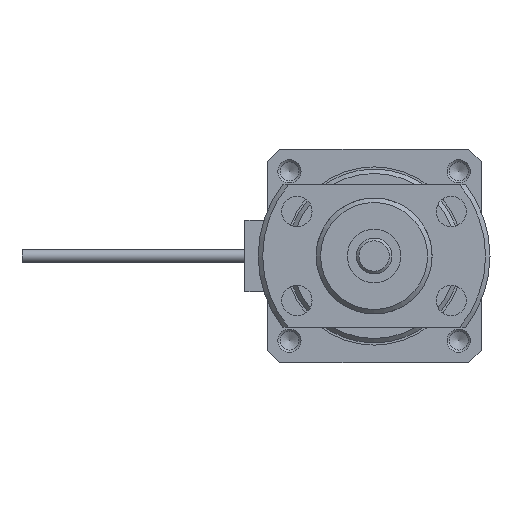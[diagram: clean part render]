
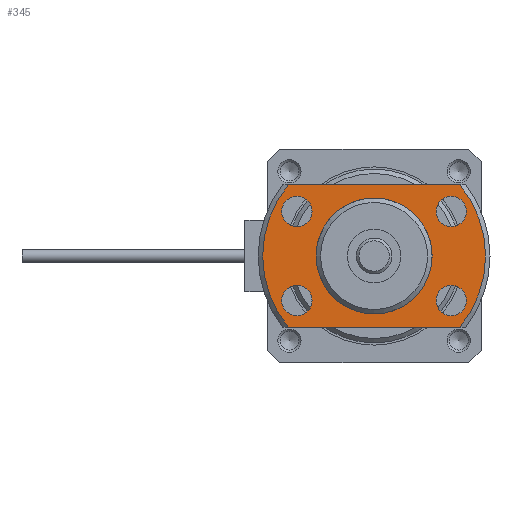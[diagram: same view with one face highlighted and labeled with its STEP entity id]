
A CAD part, left-side view. The second image highlights one B-rep face of the part: STEP entity #345.
In plain terms, the highlighted planar face has unit normal (-1, 0, 0) as drawn and (0, 0, 1) by its records, which use the part's own axes.
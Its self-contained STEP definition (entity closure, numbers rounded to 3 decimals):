
#345 = ADVANCED_FACE( '', ( #887, #888, #889, #890, #891, #892 ), #893, .F. );
#887 = FACE_OUTER_BOUND( '', #1726, .T. );
#888 = FACE_BOUND( '', #1727, .T. );
#889 = FACE_BOUND( '', #1728, .T. );
#890 = FACE_BOUND( '', #1729, .T. );
#891 = FACE_BOUND( '', #1730, .T. );
#892 = FACE_BOUND( '', #1731, .T. );
#893 = PLANE( '', #1732 );
#1726 = EDGE_LOOP( '', ( #2722, #2723, #2724, #2725 ) );
#1727 = EDGE_LOOP( '', ( #2726 ) );
#1728 = EDGE_LOOP( '', ( #2727 ) );
#1729 = EDGE_LOOP( '', ( #2728 ) );
#1730 = EDGE_LOOP( '', ( #2729 ) );
#1731 = EDGE_LOOP( '', ( #2730 ) );
#1732 = AXIS2_PLACEMENT_3D( '', #2731, #2732, #2733 );
#2722 = ORIENTED_EDGE( '', *, *, #4755, .F. );
#2723 = ORIENTED_EDGE( '', *, *, #4756, .T. );
#2724 = ORIENTED_EDGE( '', *, *, #4757, .F. );
#2725 = ORIENTED_EDGE( '', *, *, #4758, .T. );
#2726 = ORIENTED_EDGE( '', *, *, #4759, .F. );
#2727 = ORIENTED_EDGE( '', *, *, #4760, .F. );
#2728 = ORIENTED_EDGE( '', *, *, #4761, .F. );
#2729 = ORIENTED_EDGE( '', *, *, #4762, .F. );
#2730 = ORIENTED_EDGE( '', *, *, #4763, .T. );
#2731 = CARTESIAN_POINT( '', ( 0., 0., -13. ) );
#2732 = DIRECTION( '', ( 0., 0., -1. ) );
#2733 = DIRECTION( '', ( -1., 0., 0. ) );
#4755 = EDGE_CURVE( '', #5654, #5655, #5656, .T. );
#4756 = EDGE_CURVE( '', #5654, #5657, #5658, .T. );
#4757 = EDGE_CURVE( '', #5659, #5657, #5660, .T. );
#4758 = EDGE_CURVE( '', #5659, #5655, #5661, .T. );
#4759 = EDGE_CURVE( '', #5662, #5662, #5663, .T. );
#4760 = EDGE_CURVE( '', #5664, #5664, #5665, .T. );
#4761 = EDGE_CURVE( '', #5666, #5666, #5667, .T. );
#4762 = EDGE_CURVE( '', #5668, #5668, #5669, .T. );
#4763 = EDGE_CURVE( '', #5670, #5670, #5671, .T. );
#5654 = VERTEX_POINT( '', #7030 );
#5655 = VERTEX_POINT( '', #7031 );
#5656 = CIRCLE( '', #7032, 12.5 );
#5657 = VERTEX_POINT( '', #7033 );
#5658 = LINE( '', #7034, #7035 );
#5659 = VERTEX_POINT( '', #7036 );
#5660 = CIRCLE( '', #7037, 12.5 );
#5661 = LINE( '', #7038, #7039 );
#5662 = VERTEX_POINT( '', #7040 );
#5663 = CIRCLE( '', #7041, 1.7 );
#5664 = VERTEX_POINT( '', #7042 );
#5665 = CIRCLE( '', #7043, 1.7 );
#5666 = VERTEX_POINT( '', #7044 );
#5667 = CIRCLE( '', #7045, 1.7 );
#5668 = VERTEX_POINT( '', #7046 );
#5669 = CIRCLE( '', #7047, 1.7 );
#5670 = VERTEX_POINT( '', #7048 );
#5671 = CIRCLE( '', #7049, 6.25 );
#7030 = CARTESIAN_POINT( '', ( -8., 9.605, -13. ) );
#7031 = CARTESIAN_POINT( '', ( 8., 9.605, -13. ) );
#7032 = AXIS2_PLACEMENT_3D( '', #8747, #8748, #8749 );
#7033 = CARTESIAN_POINT( '', ( -8., -9.605, -13. ) );
#7034 = CARTESIAN_POINT( '', ( -8., 20., -13. ) );
#7035 = VECTOR( '', #8750, 1000. );
#7036 = CARTESIAN_POINT( '', ( 8., -9.605, -13. ) );
#7037 = AXIS2_PLACEMENT_3D( '', #8751, #8752, #8753 );
#7038 = CARTESIAN_POINT( '', ( 8., -20., -13. ) );
#7039 = VECTOR( '', #8754, 1000. );
#7040 = CARTESIAN_POINT( '', ( 6.7, -8.66, -13. ) );
#7041 = AXIS2_PLACEMENT_3D( '', #8755, #8756, #8757 );
#7042 = CARTESIAN_POINT( '', ( -3.3, -8.66, -13. ) );
#7043 = AXIS2_PLACEMENT_3D( '', #8758, #8759, #8760 );
#7044 = CARTESIAN_POINT( '', ( 6.7, 8.66, -13. ) );
#7045 = AXIS2_PLACEMENT_3D( '', #8761, #8762, #8763 );
#7046 = CARTESIAN_POINT( '', ( -3.3, 8.66, -13. ) );
#7047 = AXIS2_PLACEMENT_3D( '', #8764, #8765, #8766 );
#7048 = CARTESIAN_POINT( '', ( -6.25, 0., -13. ) );
#7049 = AXIS2_PLACEMENT_3D( '', #8767, #8768, #8769 );
#8747 = CARTESIAN_POINT( '', ( 0., 0., -13. ) );
#8748 = DIRECTION( '', ( 0., 0., -1. ) );
#8749 = DIRECTION( '', ( -1., 0., 0. ) );
#8750 = DIRECTION( '', ( 0., -1., 0. ) );
#8751 = CARTESIAN_POINT( '', ( 0., 0., -13. ) );
#8752 = DIRECTION( '', ( 0., 0., -1. ) );
#8753 = DIRECTION( '', ( -1., 0., 0. ) );
#8754 = DIRECTION( '', ( 0., 1., 0. ) );
#8755 = CARTESIAN_POINT( '', ( 5., -8.66, -13. ) );
#8756 = DIRECTION( '', ( 0., 0., 1. ) );
#8757 = DIRECTION( '', ( 1., 0., 0. ) );
#8758 = CARTESIAN_POINT( '', ( -5., -8.66, -13. ) );
#8759 = DIRECTION( '', ( 0., 0., 1. ) );
#8760 = DIRECTION( '', ( 1., 0., 0. ) );
#8761 = CARTESIAN_POINT( '', ( 5., 8.66, -13. ) );
#8762 = DIRECTION( '', ( 0., 0., 1. ) );
#8763 = DIRECTION( '', ( 1., 0., 0. ) );
#8764 = CARTESIAN_POINT( '', ( -5., 8.66, -13. ) );
#8765 = DIRECTION( '', ( 0., 0., 1. ) );
#8766 = DIRECTION( '', ( 1., 0., 0. ) );
#8767 = CARTESIAN_POINT( '', ( 0., 0., -13. ) );
#8768 = DIRECTION( '', ( 0., 0., -1. ) );
#8769 = DIRECTION( '', ( -1., 0., 0. ) );
